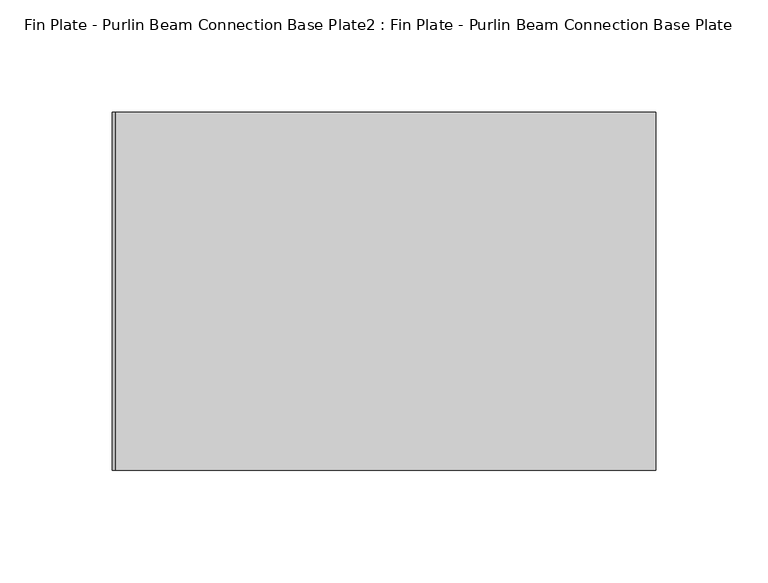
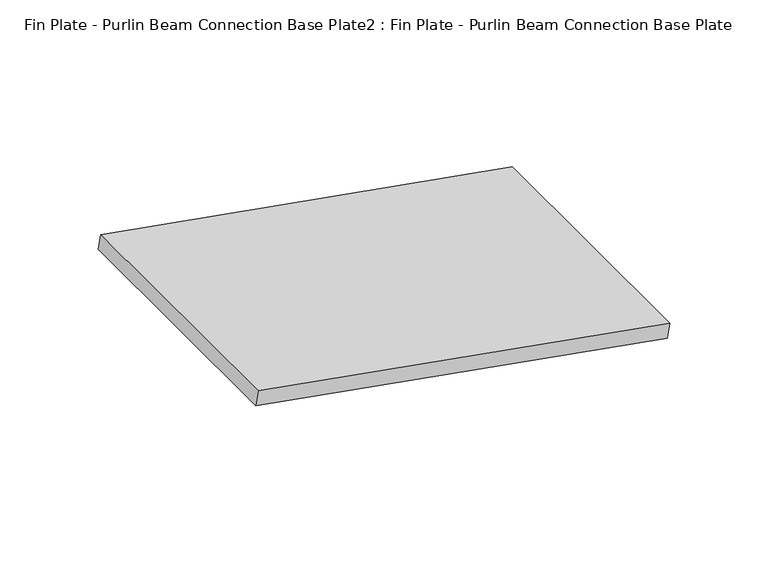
"""IFC4 building model written with IfcOpenShell, lengths in millimetres: proxy geometry, Fin Plate - Purlin Beam Connection Base Plate2 : Fin Plate - Purlin Beam Connection Base Plate."""

from ifc_helpers import new_model, si_unit, frame, origin, place, context, project, spatial, polyline, outline, extrude, source, transform, mapped, element, save


def fin_plate_purlin_beam_connection_base_plate2_fin_plate_858f80be(model_context):
    return source(origin(), model_context, "Body", "SweptSolid", [
        extrude(outline(polyline([(0.0, -160.0), (0.0, 0.0), (244.9999999, 0.0), (244.9999999, -160.0), (0.0, -160.0)])), frame((-34198.2465687, 11313.6549517, 3637.0959989), z_axis=(0.17364817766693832, 0.0, 0.9848077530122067), x_axis=(0.9848077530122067, 0.0, -0.17364817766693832)), (0.0, 0.0, 1.0), 8.8039089),
    ])


if __name__ == "__main__":
    model = new_model("IFC4")
    model_context = context("Model", 3, world=origin())
    ifc_project = project(units=[si_unit("LENGTHUNIT", "METRE", prefix="MILLI")], contexts=[model_context])
    site = spatial("IfcSite", under=ifc_project)
    building = spatial("IfcBuilding", under=site)
    placement = place(None, origin())
    fin_plate_purlin_beam_connection_base_plate2_fin_plate_shape = fin_plate_purlin_beam_connection_base_plate2_fin_plate_858f80be(model_context)
    element("IfcBuildingElementProxy", 1, Name="Fin Plate - Purlin Beam Connection Base Plate2 : Fin Plate - Purlin Beam Connection Base Plate", ObjectType="Fin Plate - Purlin Beam Connection Base Plate2 : Fin Plate - Purlin Beam Connection Base Plate", at=placement, inside=building, context=model_context, shape_type="MappedRepresentation", body=[
        mapped(fin_plate_purlin_beam_connection_base_plate2_fin_plate_shape, transform((0.0, 0.0, 0.0), x_axis=(1.0, 0.0, 0.0), y_axis=(0.0, 1.0, 0.0), z_axis=(0.0, 0.0, 1.0))),
    ])
    save(model, "model.ifc")
